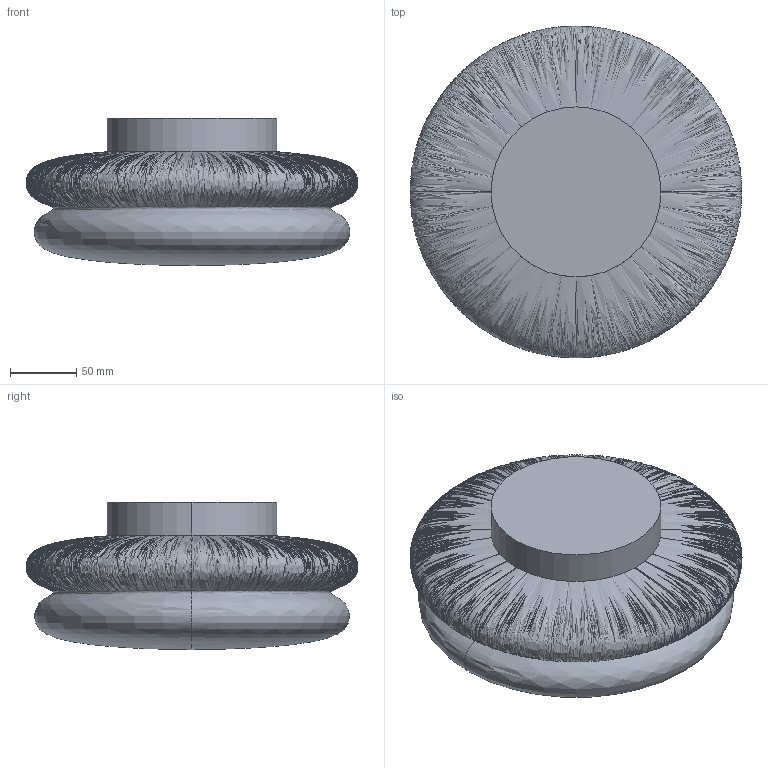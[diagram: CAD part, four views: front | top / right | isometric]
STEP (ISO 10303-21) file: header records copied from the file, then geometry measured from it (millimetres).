
FILE_DESCRIPTION(/* description */ (''),/* implementation_level */ '2;1');
FILE_NAME(/* name */ 'SNOWMAN25 C',/* time_stamp */ '2026-08-05T16:55:09+09:00',/* author */ (''),/* organization */ (''),/* preprocessor_version */ 'ST-DEVELOPER v19.2',/* originating_system */ 'Rhino 8.21',/* authorisation */ '');
FILE_SCHEMA (('CONFIG_CONTROL_DESIGN'));
Length unit declared in the file: millimetre
Products named in the file (1): Document
Bounding box: 249.98 x 249.95 x 110.71 mm (x, y, z)
Volume: 3817147.3 mm3; surface area: 161143.1 mm2
Topology: 1 solids, 1 shells, 6 faces, 12 edges, 7 vertices
Faces by surface type: cylinder 2, plane 2, bspline 2
Entity records: 818 total; most frequent: CARTESIAN_POINT 627, ORIENTED_EDGE 20, DIRECTION 20, AXIS2_PLACEMENT_3D 12, EDGE_CURVE 10, EDGE_LOOP 7, VERTEX_POINT 7, ORGANIZATION 7
